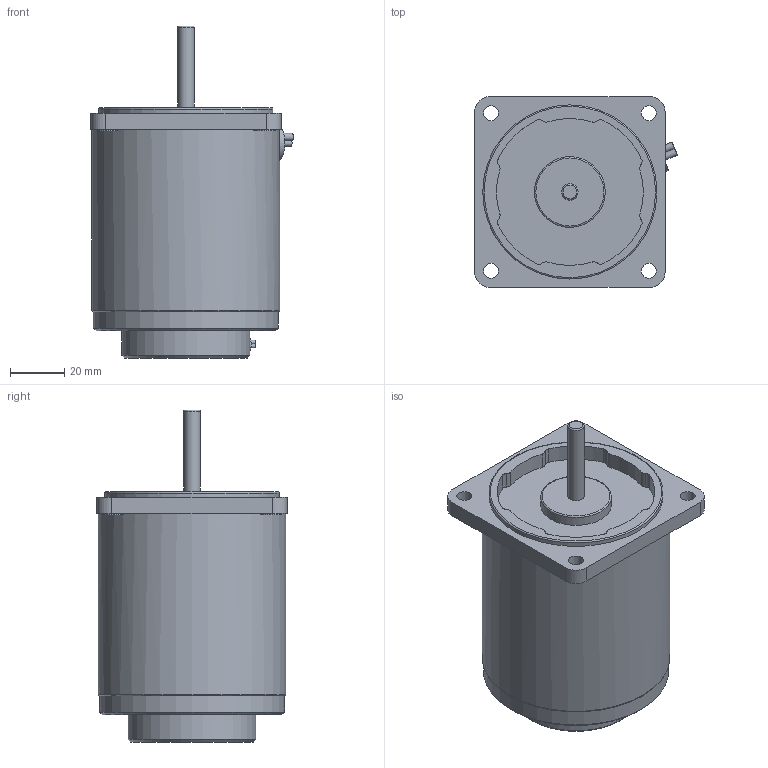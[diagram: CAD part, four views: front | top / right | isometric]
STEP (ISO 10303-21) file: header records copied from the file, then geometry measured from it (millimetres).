
FILE_DESCRIPTION((''),'2;1');
FILE_NAME('E:\2공장-도면\3D\표준형 3D(민규)\step file\SU,SP\K7IS15Nㅁ-Sㅁ.stp','2014-11-14T14:01:25',('AHN'),(''),'Autodesk Inventor 2012','Autodesk Inventor 2012','');
FILE_SCHEMA(('CONFIG_CONTROL_DESIGN'));
Length unit declared in the file: millimetre
Products named in the file (1): K7IS15Nㅁ-Sㅁ
Bounding box: 74.51 x 70 x 122 mm (x, y, z)
Volume: 316844.2 mm3; surface area: 31511 mm2
Topology: 1 solids, 1 shells, 83 faces, 190 edges, 117 vertices
Faces by surface type: cylinder 52, plane 25, torus 4, cone 2
Full cylindrical faces by diameter (mm): 1.4 x2, 5.5 x4, 6 x1, 7 x1, 8 x4, 26 x1, 47 x1, 64 x1, 68 x1, 69 x1
Entity records: 2318 total; most frequent: DIRECTION 437, CARTESIAN_POINT 423, ORIENTED_EDGE 328, AXIS2_PLACEMENT_3D 191, EDGE_CURVE 164, EDGE_LOOP 124, VERTEX_POINT 112, CIRCLE 107
